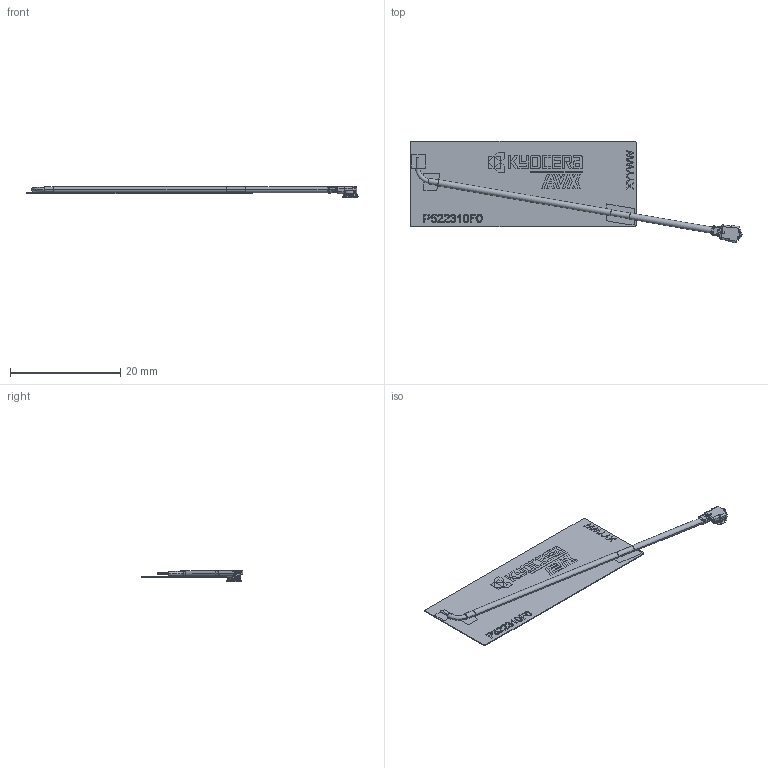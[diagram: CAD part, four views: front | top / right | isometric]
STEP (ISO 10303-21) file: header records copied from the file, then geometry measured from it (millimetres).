
FILE_DESCRIPTION((''),'2;1');
FILE_NAME('P522310F0-AA10LXXXX-ME-FIT_ASM','2025-04-29T15:55:20',('jarvayo'),(''),'CREO PARAMETRIC BY PTC INC, 2024401','CREO PARAMETRIC BY PTC INC, 2024401','');
FILE_SCHEMA(('AP203_CONFIGURATION_CONTROLLED_3D_DESIGN_OF_MECHANICAL_PARTS_AND_ASSEMBLIES_MIM_LF { 1 0 10303 403 2 1 2 }'));
Length unit declared in the file: millimetre
Products named in the file (5): P522310F0-ME-FIT; 1000827-AA10LXXXX-ME-FIT; 1001228-REF-ME-FIT; 1000827-AA10LXXXX-ME-FIT_ASM; P522310F0-AA10LXXXX-ME-FIT_ASM
Assembly tree (4 placements, depth 3):
  P522310F0-AA10LXXXX-ME-FIT_ASM
    P522310F0-ME-FIT
    1000827-AA10LXXXX-ME-FIT_ASM
      1000827-AA10LXXXX-ME-FIT
      1001228-REF-ME-FIT
Bounding box: 60.18 x 18.45 x 2 mm (x, y, z)
Volume: 158.8 mm3; surface area: 1649.8 mm2
Topology: 4 solids, 42 shells, 691 faces, 2187 edges, 1545 vertices
Faces by surface type: plane 413, cylinder 150, bspline 57, cone 46, torus 23, sphere 2
Entity records: 34640 total; most frequent: CARTESIAN_POINT 9843, ORIENTED_EDGE 3880, DIRECTION 3544, EDGE_CURVE 2183, VERTEX_POINT 1545, VECTOR 1346, LINE 1346, PRESENTATION_STYLE_ASSIGNMENT 1135
